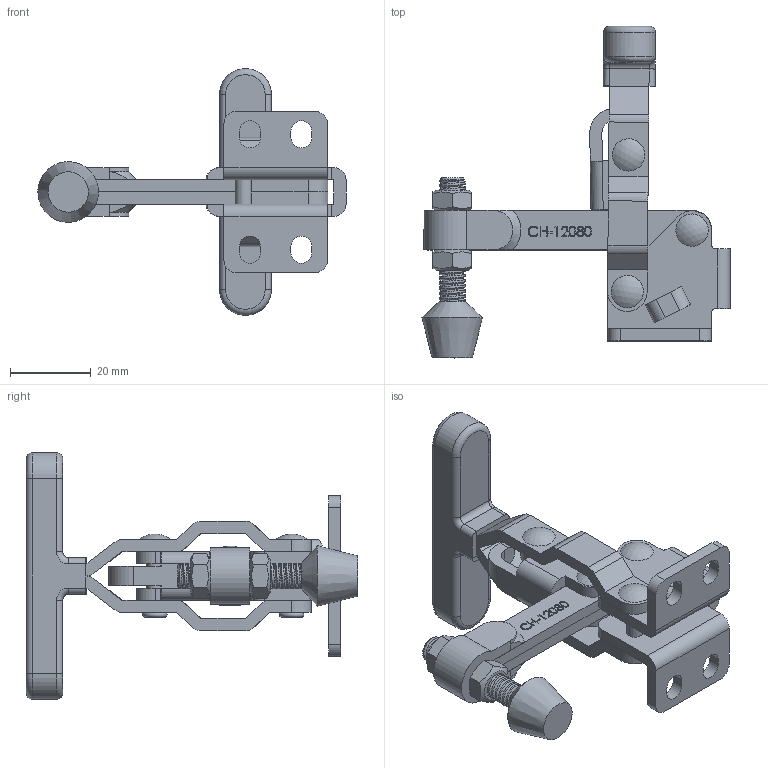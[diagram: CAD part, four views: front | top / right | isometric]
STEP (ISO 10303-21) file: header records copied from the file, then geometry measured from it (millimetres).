
FILE_DESCRIPTION(/* description */ ('STEP AP203'),/* implementation_level */ '2;1');
FILE_NAME(/* name */ 'D:\Vault_2016\Projekty\NASZ KATALOG\CLAMPTEK\STRONA\Vertical toggle clamp\CH-12080\CH-12080_ZAMKNIETY.stp',/* time_stamp */ '2019-01-18T12:43:56+01:00',/* author */ ('CADENGINEERING4'),/* organization */ ('Î¢ÈíÖÐ¹ú'),/* preprocessor_version */ 'ST-DEVELOPER v17.2',/* originating_system */ 'Autodesk Inventor 2019',/* authorisation */ '');
FILE_SCHEMA (('AUTOMOTIVE_DESIGN { 1 0 10303 214 3 1 1 }'));
Length unit declared in the file: millimetre
Products named in the file (9): CH-12080_ZAMKNIETY; CH-12050-01 FLANGED BASE; CH-12070-03 T-HANDLE; CH-12050-07; CH-12050-04 CONNECTING-PLATE; CH-12050-06; CH-FC-14134 SPINDLE SUPPLIED; CH-FC-14134 Nut; CH-12080-02 SOLID BAR_Ä¬ÈÏ_°´¼
Ó¹¤_
Assembly tree (11 placements, depth 2):
  CH-12080_ZAMKNIETY
    CH-12050-01 FLANGED BASE
    CH-12070-03 T-HANDLE
    CH-12050-07  x2
    CH-12050-06  x2
    CH-12050-04 CONNECTING-PLATE
    CH-FC-14134 Nut  x2
    CH-FC-14134 SPINDLE SUPPLIED
    CH-12080-02 SOLID BAR_Ä¬ÈÏ_°´¼
Ó¹¤_
Bounding box: 76.19 x 82.04 x 61 mm (x, y, z)
Volume: 27606.8 mm3; surface area: 22044.5 mm2
Topology: 15 solids, 18 shells, 653 faces, 1787 edges, 1205 vertices
Faces by surface type: plane 282, bspline 190, cylinder 141, cone 20, torus 16, sphere 4
Full cylindrical faces by diameter (mm): 1.219 x1, 1.411 x1, 4 x20, 5.1 x6, 6.4 x26
Entity records: 38016 total; most frequent: CARTESIAN_POINT 23011, ORIENTED_EDGE 3392, DIRECTION 2415, EDGE_CURVE 1696, VERTEX_POINT 1141, LINE 933, VECTOR 933, AXIS2_PLACEMENT_3D 741
